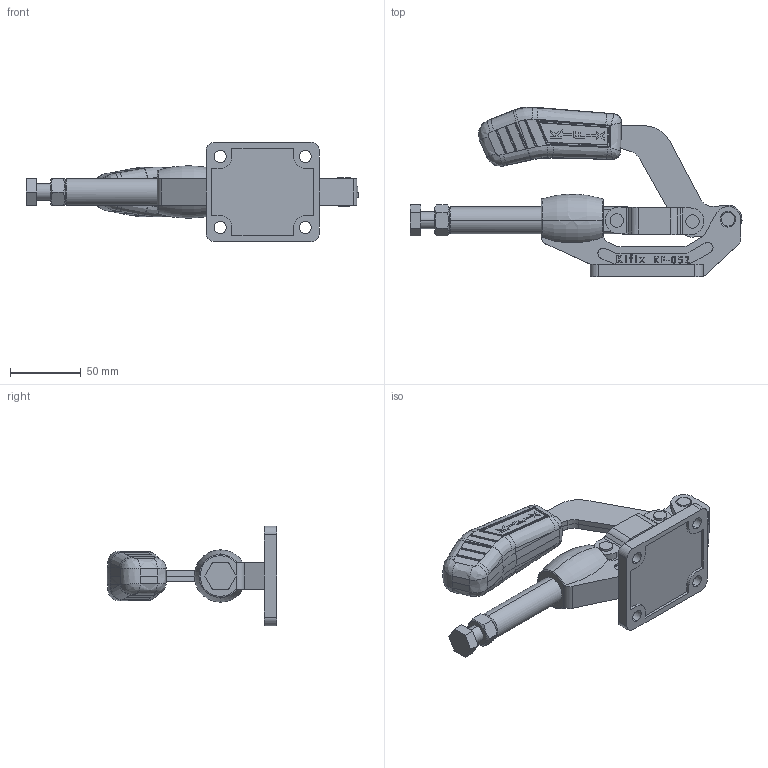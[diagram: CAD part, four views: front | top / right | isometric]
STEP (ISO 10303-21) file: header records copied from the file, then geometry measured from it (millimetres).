
FILE_DESCRIPTION (( 'STEP AP203' ), '1' );
FILE_NAME ('KF-052.STEP', '2014-08-25T18:05:02', ( 'Ricardo' ), ( '' ), 'SwSTEP 2.0', 'SolidWorks 2013', '' );
FILE_SCHEMA (( 'CONFIG_CONTROL_DESIGN' ));
Length unit declared in the file: millimetre
Products named in the file (10): 11.50004; 12.50022; PP-M12; 02.30010; KF-052; 01.10035; 03.20039; 08.10043; 06.50026; 07.60002
Assembly tree (13 placements, depth 3):
  KF-052
    02.30010
    01.10035  x2
    03.20039
    08.10043  x2
    06.50026  x3
    07.60002
    PP-M12
      11.50004
      12.50022
Bounding box: 234.09 x 119.77 x 70 mm (x, y, z)
Volume: 271506.9 mm3; surface area: 88886.7 mm2
Topology: 12 solids, 12 shells, 1022 faces, 2656 edges, 1695 vertices
Faces by surface type: plane 401, bspline 355, cylinder 176, sphere 52, cone 28, torus 10
Entity records: 41735 total; most frequent: CARTESIAN_POINT 20215, ORIENTED_EDGE 4886, DIRECTION 3138, EDGE_CURVE 2443, VERTEX_POINT 1575, LINE 1112, VECTOR 1112, EDGE_LOOP 1018
